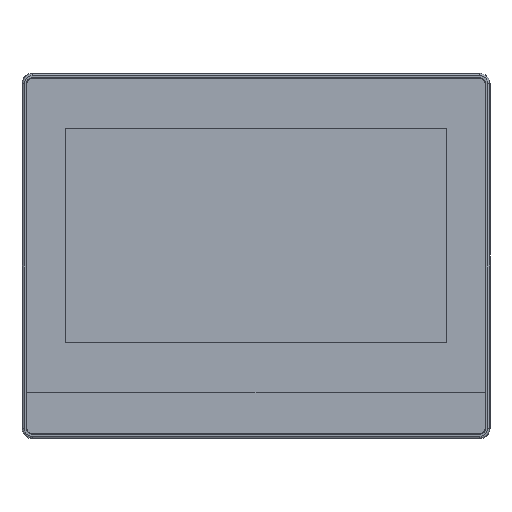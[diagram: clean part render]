
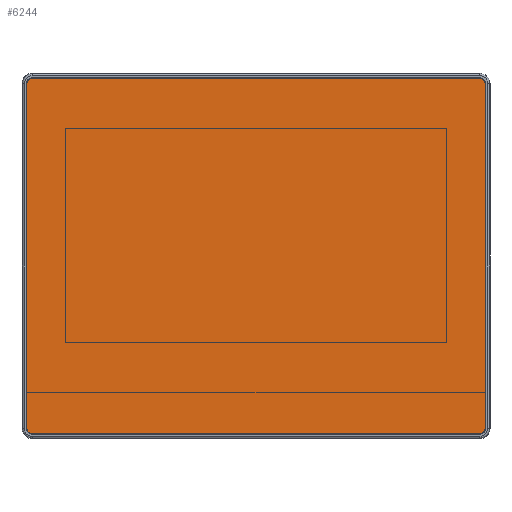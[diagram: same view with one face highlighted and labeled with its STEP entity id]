
A CAD part, top view. The second image highlights one B-rep face of the part: STEP entity #6244.
In plain terms, the highlighted planar face has unit normal (0, 0, 1).
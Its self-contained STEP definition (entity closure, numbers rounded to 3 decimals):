
#6244=ADVANCED_FACE('',(#11498),#90146,.T.);
#11498=FACE_OUTER_BOUND('',#17335,.T.);
#17335=EDGE_LOOP('',(#46267,#46268,#46269,#46270,#46271,#46272,#46273,#46274,
#46275));
#46267=ORIENTED_EDGE('',*,*,#60757,.F.);
#46268=ORIENTED_EDGE('',*,*,#60754,.F.);
#46269=ORIENTED_EDGE('',*,*,#60751,.F.);
#46270=ORIENTED_EDGE('',*,*,#60748,.F.);
#46271=ORIENTED_EDGE('',*,*,#60745,.F.);
#46272=ORIENTED_EDGE('',*,*,#60742,.F.);
#46273=ORIENTED_EDGE('',*,*,#60739,.F.);
#46274=ORIENTED_EDGE('',*,*,#60736,.F.);
#46275=ORIENTED_EDGE('',*,*,#60732,.F.);
#60732=EDGE_CURVE('',#84960,#84961,#75228,.T.);
#60736=EDGE_CURVE('',#84961,#84964,#75232,.T.);
#60739=EDGE_CURVE('',#84964,#84966,#75235,.T.);
#60742=EDGE_CURVE('',#84966,#84968,#75238,.T.);
#60745=EDGE_CURVE('',#84968,#84970,#75241,.T.);
#60748=EDGE_CURVE('',#84970,#84972,#75244,.T.);
#60751=EDGE_CURVE('',#84972,#84974,#75247,.T.);
#60754=EDGE_CURVE('',#84974,#84976,#75250,.T.);
#60757=EDGE_CURVE('',#84976,#84960,#75253,.T.);
#75228=B_SPLINE_CURVE_WITH_KNOTS('',3,(#188921,#188922,#188923,#188924),
 .UNSPECIFIED.,.F.,.F.,(4,4),(-1.,-0.867),.UNSPECIFIED.);
#75232=B_SPLINE_CURVE_WITH_KNOTS('',3,(#188933,#188934,#188935,#188936,
#188937,#188938,#188939),.UNSPECIFIED.,.F.,.F.,(4,3,4),(-0.867,
-0.8,-0.733),.UNSPECIFIED.);
#75235=B_SPLINE_CURVE_WITH_KNOTS('',3,(#188949,#188950,#188951,#188952),
 .UNSPECIFIED.,.F.,.F.,(4,4),(-0.733,-0.667),
 .UNSPECIFIED.);
#75238=B_SPLINE_CURVE_WITH_KNOTS('',3,(#188959,#188960,#188961,#188962,
#188963,#188964,#188965),.UNSPECIFIED.,.F.,.F.,(4,3,4),(-0.667,
-0.6,-0.533),.UNSPECIFIED.);
#75241=B_SPLINE_CURVE_WITH_KNOTS('',3,(#188975,#188976,#188977,#188978,
#188979,#188980,#188981),.UNSPECIFIED.,.F.,.F.,(4,3,4),(-0.533,
-0.467,-0.4),.UNSPECIFIED.);
#75244=B_SPLINE_CURVE_WITH_KNOTS('',3,(#188991,#188992,#188993,#188994,
#188995,#188996,#188997),.UNSPECIFIED.,.F.,.F.,(4,3,4),(-0.4,-0.333,
-0.267),.UNSPECIFIED.);
#75247=B_SPLINE_CURVE_WITH_KNOTS('',3,(#189007,#189008,#189009,#189010),
 .UNSPECIFIED.,.F.,.F.,(4,4),(-0.267,-0.2),.UNSPECIFIED.);
#75250=B_SPLINE_CURVE_WITH_KNOTS('',3,(#189017,#189018,#189019,#189020,
#189021,#189022,#189023),.UNSPECIFIED.,.F.,.F.,(4,3,4),(-0.2,-0.133,
-0.067),.UNSPECIFIED.);
#75253=B_SPLINE_CURVE_WITH_KNOTS('',3,(#189033,#189034,#189035,#189036),
 .UNSPECIFIED.,.F.,.F.,(4,4),(-0.067,0.),.UNSPECIFIED.);
#84960=VERTEX_POINT('',#188903);
#84961=VERTEX_POINT('',#188904);
#84964=VERTEX_POINT('',#188907);
#84966=VERTEX_POINT('',#188909);
#84968=VERTEX_POINT('',#188911);
#84970=VERTEX_POINT('',#188913);
#84972=VERTEX_POINT('',#188915);
#84974=VERTEX_POINT('',#188917);
#84976=VERTEX_POINT('',#188919);
#90146=PLANE('',#94145);
#94145=AXIS2_PLACEMENT_3D('',#188901,#97698,$);
#97698=DIRECTION('',(0.,0.,1.));
#188901=CARTESIAN_POINT('',(155.365,-152.,0.));
#188903=CARTESIAN_POINT('',(121.962,-102.194,0.));
#188904=CARTESIAN_POINT('',(121.962,-122.984,0.));
#188907=CARTESIAN_POINT('',(118.849,-126.097,0.));
#188909=CARTESIAN_POINT('',(-142.151,-126.097,0.));
#188911=CARTESIAN_POINT('',(-145.263,-122.984,0.));
#188913=CARTESIAN_POINT('',(-145.263,78.016,0.));
#188915=CARTESIAN_POINT('',(-142.151,81.129,0.));
#188917=CARTESIAN_POINT('',(118.849,81.129,0.));
#188919=CARTESIAN_POINT('',(121.962,78.016,0.));
#188921=CARTESIAN_POINT('',(121.962,-102.194,0.));
#188922=CARTESIAN_POINT('',(121.962,-109.124,0.));
#188923=CARTESIAN_POINT('',(121.962,-116.054,0.));
#188924=CARTESIAN_POINT('',(121.962,-122.984,0.));
#188933=CARTESIAN_POINT('',(121.962,-122.984,0.));
#188934=CARTESIAN_POINT('',(121.962,-123.642,0.));
#188935=CARTESIAN_POINT('',(121.584,-124.426,0.));
#188936=CARTESIAN_POINT('',(121.181,-124.929,0.));
#188937=CARTESIAN_POINT('',(120.596,-125.66,0.));
#188938=CARTESIAN_POINT('',(119.796,-126.097,0.));
#188939=CARTESIAN_POINT('',(118.849,-126.097,0.));
#188949=CARTESIAN_POINT('',(118.849,-126.097,0.));
#188950=CARTESIAN_POINT('',(31.849,-126.097,0.));
#188951=CARTESIAN_POINT('',(-55.151,-126.097,0.));
#188952=CARTESIAN_POINT('',(-142.151,-126.097,0.));
#188959=CARTESIAN_POINT('',(-142.151,-126.097,0.));
#188960=CARTESIAN_POINT('',(-142.809,-126.097,0.));
#188961=CARTESIAN_POINT('',(-143.592,-125.718,0.));
#188962=CARTESIAN_POINT('',(-144.096,-125.315,0.));
#188963=CARTESIAN_POINT('',(-144.827,-124.731,0.));
#188964=CARTESIAN_POINT('',(-145.263,-123.931,0.));
#188965=CARTESIAN_POINT('',(-145.263,-122.984,0.));
#188975=CARTESIAN_POINT('',(-145.263,-122.984,0.));
#188976=CARTESIAN_POINT('',(-145.263,-116.054,0.));
#188977=CARTESIAN_POINT('',(-145.263,-109.124,0.));
#188978=CARTESIAN_POINT('',(-145.263,-102.194,0.));
#188979=CARTESIAN_POINT('',(-145.263,-42.124,0.));
#188980=CARTESIAN_POINT('',(-145.263,17.946,0.));
#188981=CARTESIAN_POINT('',(-145.263,78.016,0.));
#188991=CARTESIAN_POINT('',(-145.263,78.016,0.));
#188992=CARTESIAN_POINT('',(-145.263,78.963,0.));
#188993=CARTESIAN_POINT('',(-144.827,79.763,0.));
#188994=CARTESIAN_POINT('',(-144.096,80.347,0.));
#188995=CARTESIAN_POINT('',(-143.592,80.75,0.));
#188996=CARTESIAN_POINT('',(-142.809,81.129,0.));
#188997=CARTESIAN_POINT('',(-142.151,81.129,0.));
#189007=CARTESIAN_POINT('',(-142.151,81.129,0.));
#189008=CARTESIAN_POINT('',(-55.151,81.129,0.));
#189009=CARTESIAN_POINT('',(31.849,81.129,0.));
#189010=CARTESIAN_POINT('',(118.849,81.129,0.));
#189017=CARTESIAN_POINT('',(118.849,81.129,0.));
#189018=CARTESIAN_POINT('',(119.796,81.129,0.));
#189019=CARTESIAN_POINT('',(120.596,80.692,0.));
#189020=CARTESIAN_POINT('',(121.181,79.961,0.));
#189021=CARTESIAN_POINT('',(121.584,79.458,0.));
#189022=CARTESIAN_POINT('',(121.962,78.674,0.));
#189023=CARTESIAN_POINT('',(121.962,78.016,0.));
#189033=CARTESIAN_POINT('',(121.962,78.016,0.));
#189034=CARTESIAN_POINT('',(121.962,17.946,0.));
#189035=CARTESIAN_POINT('',(121.962,-42.124,0.));
#189036=CARTESIAN_POINT('',(121.962,-102.194,0.));
